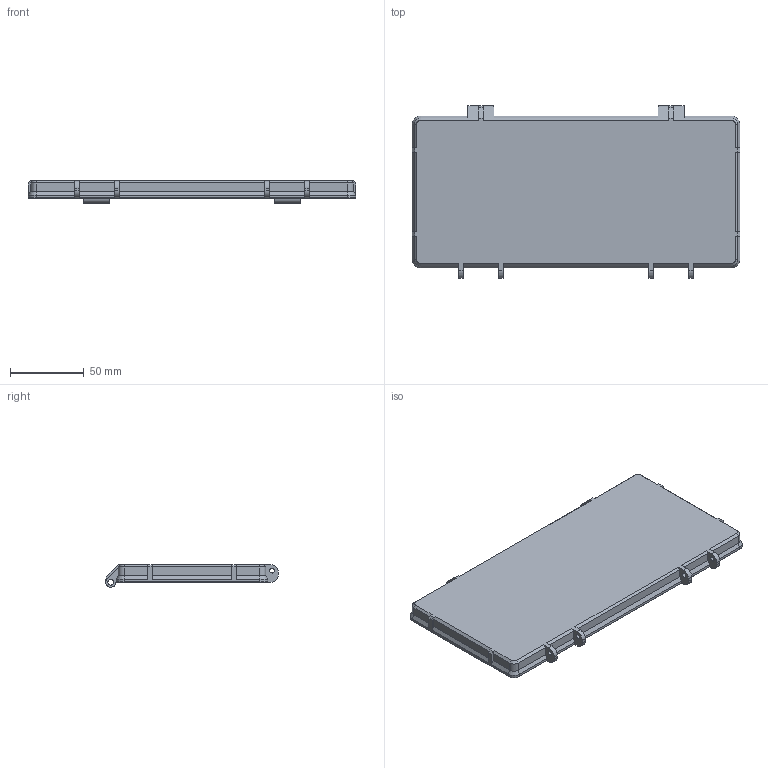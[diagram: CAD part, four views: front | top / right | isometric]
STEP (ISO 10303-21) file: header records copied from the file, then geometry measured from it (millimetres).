
FILE_DESCRIPTION (( 'STEP AP214' ), '1' );
FILE_NAME ('v2_case_top.STEP', '2025-12-10T22:52:26', ( '' ), ( '' ), 'SwSTEP 2.0', 'SolidWorks 2023', '' );
FILE_SCHEMA (( 'AUTOMOTIVE_DESIGN' ));
Length unit declared in the file: millimetre
Products named in the file (1): v2_case_top
Bounding box: 222 x 117 x 15.3 mm (x, y, z)
Volume: 49074 mm3; surface area: 71017.7 mm2
Topology: 1 solids, 1 shells, 634 faces, 1613 edges, 972 vertices
Faces by surface type: plane 417, cone 124, cylinder 93
Entity records: 18544 total; most frequent: CARTESIAN_POINT 3358, ORIENTED_EDGE 3178, DIRECTION 3093, EDGE_CURVE 1589, LINE 1251, VECTOR 1251, VERTEX_POINT 972, AXIS2_PLACEMENT_3D 921
